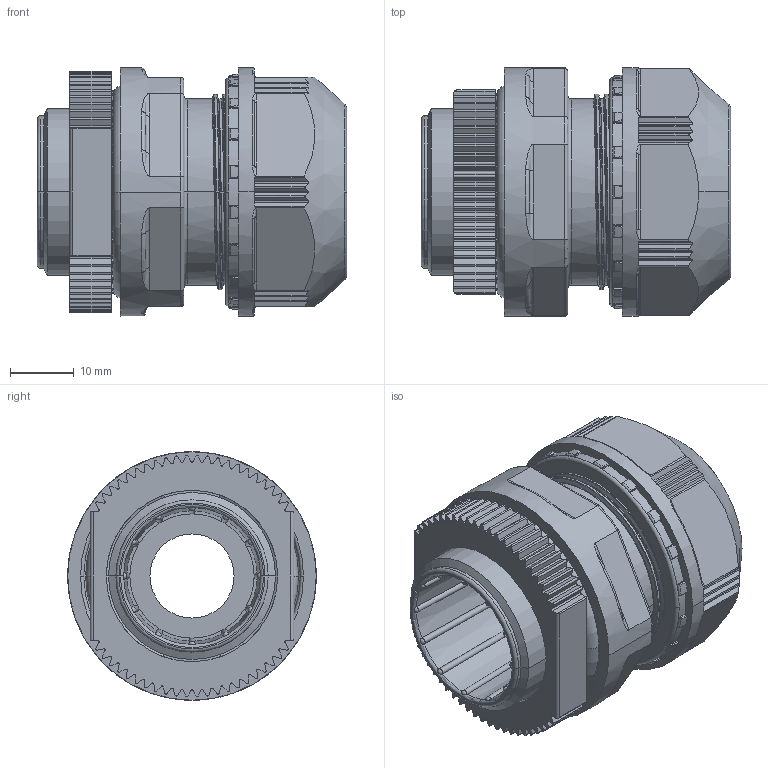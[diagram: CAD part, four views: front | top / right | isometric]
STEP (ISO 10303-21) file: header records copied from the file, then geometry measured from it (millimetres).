
FILE_DESCRIPTION(('Creo Elements/Direct Modeling STEP Export'),'2;1');
FILE_NAME('OA-W2213.stp','2017-03-17T15:19:28',(''),(''),'PTC Creo Elements/Direct Modeling STEP processor for AP214 (Solid Model)','PTC Creo Elements/Direct Modeling 19.0D 23-Nov-2015 (C) Parametric Technology GmbH','');
FILE_SCHEMA(('AUTOMOTIVE_DESIGN { 1 0 10303 214 1 1 1 1 }'));
Length unit declared in the file: millimetre
Products named in the file (4): ﾛｯｸﾅｯﾄ; ゴムブッシュ; OA-W2213; Assembly-1
Assembly tree (3 placements, depth 2):
  Assembly-1
    OA-W2213
    ゴムブッシュ
    ﾛｯｸﾅｯﾄ
Bounding box: 48.56 x 39 x 39 mm (x, y, z)
Volume: 33017.8 mm3; surface area: 18172 mm2
Topology: 3 solids, 3 shells, 994 faces, 2765 edges, 1706 vertices
Faces by surface type: plane 371, cylinder 367, torus 66, cone 66, sphere 58, bspline 54, extrusion 12
Entity records: 64363 total; most frequent: CARTESIAN_POINT 40308, ORIENTED_EDGE 5366, DIRECTION 4691, EDGE_CURVE 2683, AXIS2_PLACEMENT_3D 1749, VERTEX_POINT 1706, VECTOR 1193, LINE 1181
